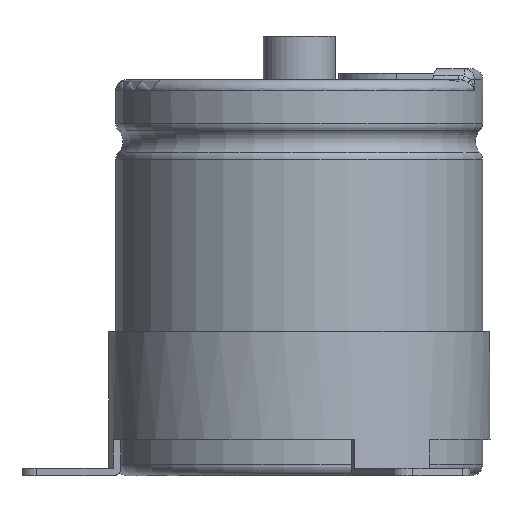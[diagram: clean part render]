
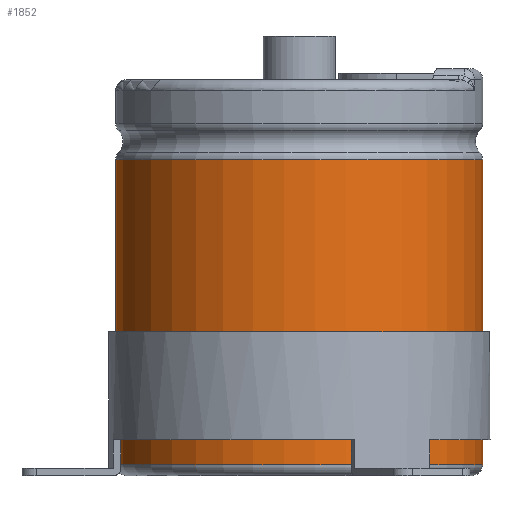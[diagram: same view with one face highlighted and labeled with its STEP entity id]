
A CAD part, front view. The second image highlights one B-rep face of the part: STEP entity #1852.
In plain terms, the highlighted cylindrical face has radius 25.5 mm (diameter 51 mm), a partial arc.
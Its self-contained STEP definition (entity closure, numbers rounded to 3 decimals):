
#500=FACE_OUTER_BOUND('',#2370,.T.);
#762=LINE('',#9297,#1000);
#763=LINE('',#9301,#1001);
#1000=VECTOR('',#6941,1.);
#1001=VECTOR('',#6944,1.);
#1852=ADVANCED_FACE('',(#500),#2000,.T.);
#2000=CYLINDRICAL_SURFACE('',#5777,25.5);
#2370=EDGE_LOOP('',(#3443,#3444,#3445,#3446));
#3443=ORIENTED_EDGE('',*,*,#4853,.T.);
#3444=ORIENTED_EDGE('',*,*,#4854,.T.);
#3445=ORIENTED_EDGE('',*,*,#4855,.F.);
#3446=ORIENTED_EDGE('',*,*,#4856,.F.);
#4226=VERTEX_POINT('',#9290);
#4228=VERTEX_POINT('',#9294);
#4229=VERTEX_POINT('',#9298);
#4230=VERTEX_POINT('',#9300);
#4853=EDGE_CURVE('',#4226,#4228,#5262,.T.);
#4854=EDGE_CURVE('',#4228,#4229,#762,.T.);
#4855=EDGE_CURVE('',#4230,#4229,#5263,.T.);
#4856=EDGE_CURVE('',#4226,#4230,#763,.T.);
#5262=CIRCLE('',#5774,25.5);
#5263=CIRCLE('',#5776,25.5);
#5774=AXIS2_PLACEMENT_3D('',#9295,#6937,#6938);
#5776=AXIS2_PLACEMENT_3D('',#9299,#6942,#6943);
#5777=AXIS2_PLACEMENT_3D('',#9302,#6945,#6946);
#6937=DIRECTION('',(0.,0.,-1.));
#6938=DIRECTION('',(0.,1.,0.));
#6941=DIRECTION('',(0.,0.,-1.));
#6942=DIRECTION('',(0.,0.,-1.));
#6943=DIRECTION('',(0.,1.,0.));
#6944=DIRECTION('',(0.,0.,-1.));
#6945=DIRECTION('',(0.,0.,-1.));
#6946=DIRECTION('',(0.,1.,0.));
#9290=CARTESIAN_POINT('',(3.989,25.186,43.9));
#9294=CARTESIAN_POINT('',(-3.989,25.186,43.9));
#9295=CARTESIAN_POINT('',(0.,0.,43.9));
#9297=CARTESIAN_POINT('',(-3.989,25.186,43.9));
#9298=CARTESIAN_POINT('',(-3.989,25.186,1.5));
#9299=CARTESIAN_POINT('',(0.,0.,1.5));
#9300=CARTESIAN_POINT('',(3.989,25.186,1.5));
#9301=CARTESIAN_POINT('',(3.989,25.186,43.9));
#9302=CARTESIAN_POINT('',(0.,0.,0.));
